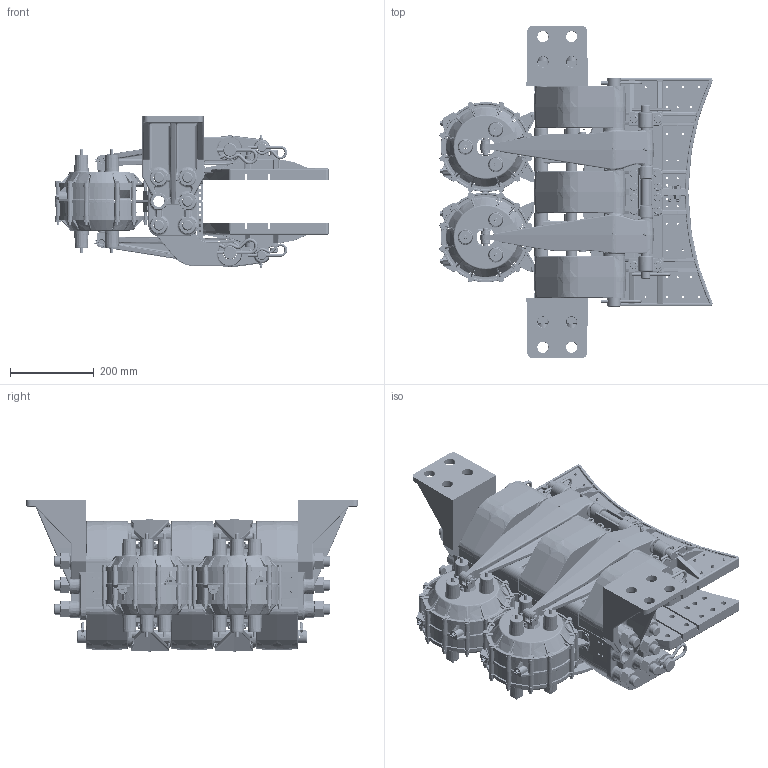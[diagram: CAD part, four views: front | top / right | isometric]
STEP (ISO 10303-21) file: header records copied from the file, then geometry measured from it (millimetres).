
FILE_DESCRIPTION (( 'STEP AP214' ), '1' );
FILE_NAME ('5028-AW_revB.STEP', '2022-06-06T18:33:57', ( '' ), ( '' ), 'SwSTEP 2.0', 'SolidWorks 2021', '' );
FILE_SCHEMA (( 'AUTOMOTIVE_DESIGN' ));
Length unit declared in the file: inch
Products named in the file (1): 5028-AW_revB
Bounding box: 653.17 x 793.75 x 361.74 mm (x, y, z)
Surface area: 3334104.5 mm2 (no closed solid volume)
Topology: 0 solids, 397 shells, 6956 faces, 23759 edges, 16243 vertices
Faces by surface type: cylinder 2102, plane 1844, bspline 1097, cone 1005, torus 887, sphere 21
Entity records: 460098 total; most frequent: CARTESIAN_POINT 182704, DIRECTION 37836, ORIENTED_EDGE 36005, EDGE_CURVE 23669, VERTEX_POINT 16243, AXIS2_PLACEMENT_3D 15450, CIRCLE 9590, EDGE_LOOP 7798
